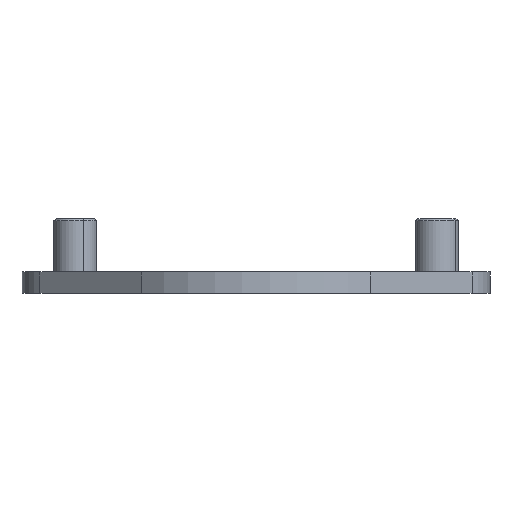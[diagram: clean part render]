
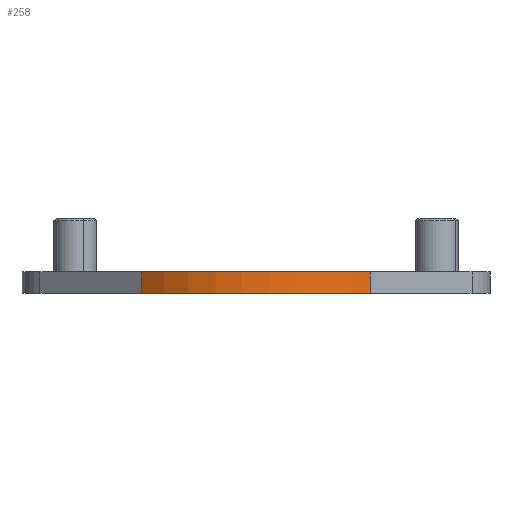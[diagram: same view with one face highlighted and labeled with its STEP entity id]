
A CAD part, front view. The second image highlights one B-rep face of the part: STEP entity #258.
In plain terms, the highlighted cylindrical face has radius 16.25 mm (diameter 32.5 mm), a partial arc.
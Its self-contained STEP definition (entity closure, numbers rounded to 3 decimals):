
#68 = ORIENTED_EDGE ( 'NONE', *, *, #668, .T. ) ;
#71 = CIRCLE ( 'NONE', #177, 16.25 ) ;
#96 = CARTESIAN_POINT ( 'NONE',  ( 0., 0., 2. ) ) ;
#177 = AXIS2_PLACEMENT_3D ( 'NONE', #622, #1169, #715 ) ;
#181 = VERTEX_POINT ( 'NONE', #497 ) ;
#216 = DIRECTION ( 'NONE',  ( 0., 0., 1. ) ) ;
#246 = LINE ( 'NONE', #937, #903 ) ;
#258 = ADVANCED_FACE ( 'NONE', ( #1108 ), #388, .T. ) ;
#276 = CARTESIAN_POINT ( 'NONE',  ( -10.754, -12.183, 2. ) ) ;
#283 = DIRECTION ( 'NONE',  ( 0., 0., -1. ) ) ;
#299 = CARTESIAN_POINT ( 'NONE',  ( 10.754, -12.183, 2. ) ) ;
#345 = EDGE_CURVE ( 'NONE', #822, #181, #803, .T. ) ;
#364 = DIRECTION ( 'NONE',  ( 0., 0., -1. ) ) ;
#382 = EDGE_LOOP ( 'NONE', ( #68, #896, #486, #1120 ) ) ;
#388 = CYLINDRICAL_SURFACE ( 'NONE', #709, 16.25 ) ;
#486 = ORIENTED_EDGE ( 'NONE', *, *, #1152, .F. ) ;
#497 = CARTESIAN_POINT ( 'NONE',  ( 10.754, -12.183, 0. ) ) ;
#499 = DIRECTION ( 'NONE',  ( 0., 0., -1. ) ) ;
#547 = VECTOR ( 'NONE', #364, 1000. ) ;
#622 = CARTESIAN_POINT ( 'NONE',  ( 0., 0., 0. ) ) ;
#643 = VERTEX_POINT ( 'NONE', #276 ) ;
#668 = EDGE_CURVE ( 'NONE', #989, #181, #71, .T. ) ;
#709 = AXIS2_PLACEMENT_3D ( 'NONE', #96, #283, #1096 ) ;
#715 = DIRECTION ( 'NONE',  ( 1., 0., 0. ) ) ;
#719 = CARTESIAN_POINT ( 'NONE',  ( 10.754, -12.183, 2. ) ) ;
#748 = DIRECTION ( 'NONE',  ( 1., 0., 0. ) ) ;
#803 = LINE ( 'NONE', #719, #547 ) ;
#822 = VERTEX_POINT ( 'NONE', #299 ) ;
#843 = CARTESIAN_POINT ( 'NONE',  ( 0., 0., 2. ) ) ;
#856 = AXIS2_PLACEMENT_3D ( 'NONE', #843, #216, #748 ) ;
#896 = ORIENTED_EDGE ( 'NONE', *, *, #345, .F. ) ;
#903 = VECTOR ( 'NONE', #499, 1000. ) ;
#937 = CARTESIAN_POINT ( 'NONE',  ( -10.754, -12.183, 2. ) ) ;
#989 = VERTEX_POINT ( 'NONE', #1132 ) ;
#1096 = DIRECTION ( 'NONE',  ( -1., 0., 0. ) ) ;
#1108 = FACE_OUTER_BOUND ( 'NONE', #382, .T. ) ;
#1120 = ORIENTED_EDGE ( 'NONE', *, *, #1136, .T. ) ;
#1126 = CIRCLE ( 'NONE', #856, 16.25 ) ;
#1132 = CARTESIAN_POINT ( 'NONE',  ( -10.754, -12.183, 0. ) ) ;
#1136 = EDGE_CURVE ( 'NONE', #643, #989, #246, .T. ) ;
#1152 = EDGE_CURVE ( 'NONE', #643, #822, #1126, .T. ) ;
#1169 = DIRECTION ( 'NONE',  ( 0., 0., 1. ) ) ;
